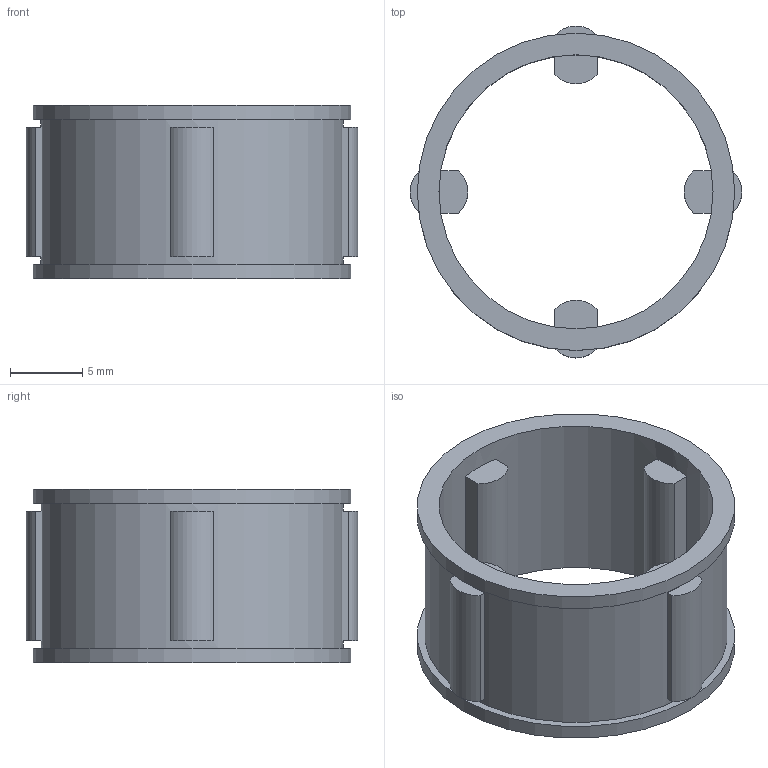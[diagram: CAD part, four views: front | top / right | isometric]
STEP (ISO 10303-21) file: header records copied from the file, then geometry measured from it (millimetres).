
FILE_DESCRIPTION(/* description */ (''),/* implementation_level */ '2;1');
FILE_NAME(/* name */ '300411 FE 423 Z.stp',/* time_stamp */ '2016-11-03T09:56:43+01:00',/* author */ (''),/* organization */ (''),/* preprocessor_version */ 'ST-DEVELOPER v15',/* originating_system */ 'SIEMENS PLM Software NX 8.5',/* authorisation */ '');
FILE_SCHEMA (('CONFIG_CONTROL_DESIGN'));
Length unit declared in the file: millimetre
Products named in the file (1): ATE0000080_01
Bounding box: 23 x 23 x 12 mm (x, y, z)
Volume: 1096.8 mm3; surface area: 1983.9 mm2
Topology: 1 solids, 1 shells, 48 faces, 114 edges, 76 vertices
Faces by surface type: plane 36, cylinder 12
Full cylindrical faces by diameter (mm): 19 x1, 21 x1, 22 x2
Entity records: 1420 total; most frequent: DIRECTION 242, CARTESIAN_POINT 225, ORIENTED_EDGE 208, EDGE_CURVE 104, AXIS2_PLACEMENT_3D 89, VERTEX_POINT 72, LINE 64, VECTOR 64
